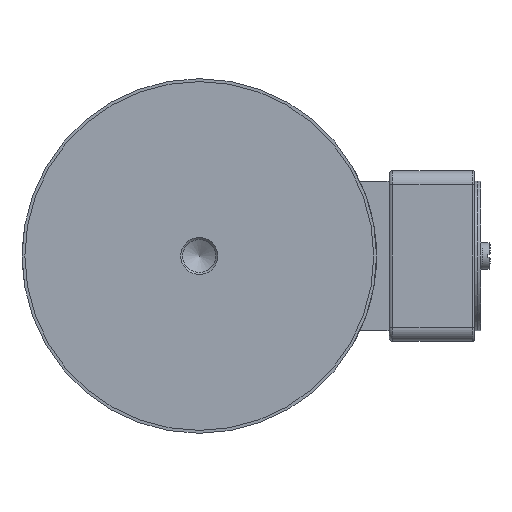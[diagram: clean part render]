
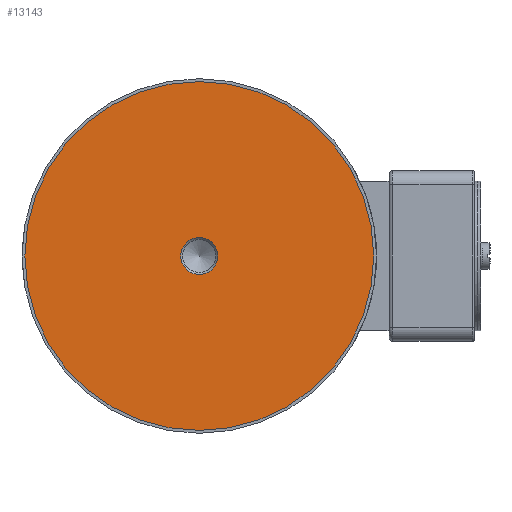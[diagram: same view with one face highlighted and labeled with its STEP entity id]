
A CAD part, front view. The second image highlights one B-rep face of the part: STEP entity #13143.
In plain terms, the highlighted planar face has unit normal (0, -1, 0).
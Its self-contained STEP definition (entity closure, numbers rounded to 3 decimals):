
#2587=FACE_BOUND('',#3983,.T.);
#2709=PLANE('',#14064);
#3184=FACE_OUTER_BOUND('',#3982,.T.);
#3982=EDGE_LOOP('',(#8794));
#3983=EDGE_LOOP('',(#8795));
#4876=CIRCLE('',#14052,91.);
#4882=CIRCLE('',#14065,9.647);
#5556=VERTEX_POINT('',#19822);
#5565=VERTEX_POINT('',#19850);
#6801=EDGE_CURVE('',#5556,#5556,#4876,.T.);
#6812=EDGE_CURVE('',#5565,#5565,#4882,.T.);
#8794=ORIENTED_EDGE('',*,*,#6801,.F.);
#8795=ORIENTED_EDGE('',*,*,#6812,.F.);
#13143=ADVANCED_FACE('',(#3184,#2587),#2709,.T.);
#14052=AXIS2_PLACEMENT_3D('',#19824,#15622,#15623);
#14064=AXIS2_PLACEMENT_3D('',#19849,#15651,#15652);
#14065=AXIS2_PLACEMENT_3D('',#19851,#15653,#15654);
#15622=DIRECTION('center_axis',(0.,1.,0.));
#15623=DIRECTION('ref_axis',(-1.,0.,0.));
#15651=DIRECTION('center_axis',(0.,-1.,0.));
#15652=DIRECTION('ref_axis',(0.,0.,
1.));
#15653=DIRECTION('center_axis',(0.,-1.,0.));
#15654=DIRECTION('ref_axis',(1.,0.,0.));
#19822=CARTESIAN_POINT('',(91.,-150.,0.));
#19824=CARTESIAN_POINT('Origin',(0.,-150.,0.));
#19849=CARTESIAN_POINT('Origin',(-91.,-150.,0.));
#19850=CARTESIAN_POINT('',(-9.647,-150.,0.));
#19851=CARTESIAN_POINT('Origin',(0.,-150.,0.));
